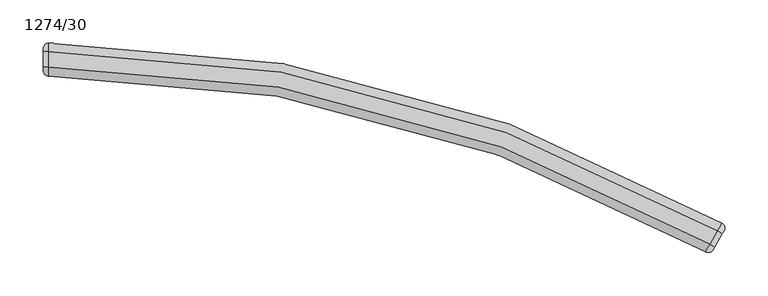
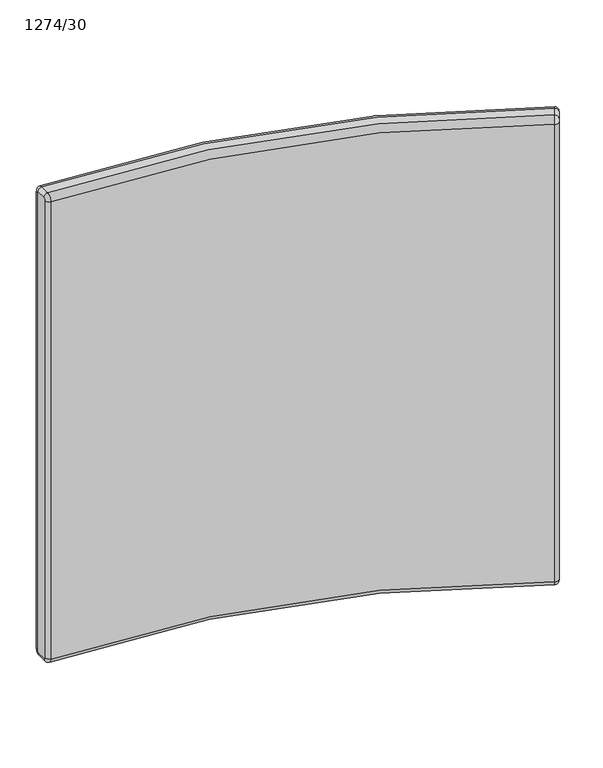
"""IFC4 building model written with IfcOpenShell, lengths in millimetres: furniture geometry, Laguna-Panel-Curve_Inside-ERG : 1274/30."""

from ifc_helpers import new_model, si_unit, point, frame, origin, place, context, project, spatial, polyline, circle_curve, ellipse_curve, trimmed, source, transform, mapped, element, save
from ifc_brep_helpers import plane_surface, cylinder_surface, revolved_surface, advanced_brep


def furniture_1274_30_ad6ad9e1(model_context):
    return source(origin(), model_context, "Body", "AdvancedBrep", [
        advanced_brep(
        [(-4044.6111209, 1281.2423208, 1056.64), (-4046.9353822, 1289.9165821, 1056.64), (-4052.0153822, 1281.117764, 1066.8), (-4046.5161209, 1277.942764, 1060.45), (-4060.9186326, 1265.696882, 1066.8), (-4055.4193713, 1262.521882, 1060.45), (-4065.9986326, 1256.8980639, 1056.64), (-4057.3243713, 1259.2223252, 1056.64), (-4065.9986326, 1256.8980639, 213.36), (-4057.3243713, 1259.2223252, 213.36), (-4060.9186326, 1265.696882, 203.2), (-4055.4193713, 1262.521882, 209.55), (-4052.0153822, 1281.117764, 203.2), (-4046.5161209, 1277.942764, 209.55), (-4046.9353822, 1289.9165821, 213.36), (-4044.6111209, 1281.2423208, 213.36), (-4826.5553779, 1498.8151303, 1056.64), (-4826.5553779, 1488.6551303, 1066.8), (-4826.5553779, 1498.8151303, 213.36), (-4826.5553779, 1488.6551303, 203.2), (-4826.5553779, 1470.8486296, 203.2), (-4826.5553779, 1460.6886296, 213.36), (-4826.5553779, 1460.6886296, 1056.64), (-4826.5553779, 1470.8486296, 1066.8), (-4832.9053779, 1467.0386296, 1056.64), (-4832.9053779, 1470.8486296, 1060.45), (-4832.9053779, 1488.6551303, 1060.45), (-4832.9053779, 1492.4651303, 1056.64), (-4832.9053779, 1492.4651303, 213.36), (-4832.9053779, 1488.6551303, 209.55), (-4832.9053779, 1470.8486296, 209.55), (-4832.9053779, 1467.0386296, 213.36)],
        [
            (0, 1, circle_curve(frame((-4050.1103822, 1284.4173208, 1056.64), z_axis=(0.0, 0.0, 1.0), x_axis=(-0.5000000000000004, -0.8660254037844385, 0.0)), 6.35)),
            (1, 2, circle_curve(frame((-4052.0153822, 1281.117764, 1056.64), z_axis=(0.866025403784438, -0.5000000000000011, 0.0), x_axis=(0.5000000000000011, 0.866025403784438, 0.0)), 10.16)),
            (2, 3, circle_curve(frame((-4052.0153822, 1281.117764, 1060.45), z_axis=(0.5000000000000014, 0.8660254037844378, 0.0), x_axis=(0.0, 0.0, -1.0)), 6.35)),
            (3, 0, circle_curve(frame((-4046.5161209, 1277.942764, 1056.64), z_axis=(-0.866025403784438, 0.5000000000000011, 0.0), x_axis=(0.5000000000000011, 0.866025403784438, 0.0)), 3.81)),
            (2, 4),
            (4, 5, circle_curve(frame((-4060.9186326, 1265.696882, 1060.45), z_axis=(0.5000000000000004, 0.8660254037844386, 0.0), x_axis=(0.0, 0.0, -1.0)), 6.35)),
            (5, 3),
            (4, 6, circle_curve(frame((-4060.9186326, 1265.696882, 1056.64), z_axis=(0.866025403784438, -0.5000000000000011, 0.0), x_axis=(0.0, 0.0, 1.0)), 10.16)),
            (6, 7, circle_curve(frame((-4062.8236326, 1262.3973252, 1056.64), z_axis=(0.0, 0.0, 1.0), x_axis=(0.5000000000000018, 0.8660254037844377, 0.0)), 6.35)),
            (7, 5, circle_curve(frame((-4055.4193713, 1262.521882, 1056.64), z_axis=(-0.866025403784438, 0.5000000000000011, 0.0), x_axis=(0.0, 0.0, 1.0)), 3.81)),
            (6, 8),
            (8, 9, circle_curve(frame((-4062.8236326, 1262.3973252, 213.36), z_axis=(0.0, 0.0, 1.0), x_axis=(0.5000000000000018, 0.8660254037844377, 0.0)), 6.35)),
            (9, 7),
            (8, 10, circle_curve(frame((-4060.9186326, 1265.696882, 213.36), z_axis=(0.8660254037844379, -0.5000000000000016, 0.0), x_axis=(-0.5000000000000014, -0.8660254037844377, 0.0)), 10.16)),
            (10, 11, circle_curve(frame((-4060.9186326, 1265.696882, 209.55), z_axis=(-0.5000000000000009, -0.866025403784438, 0.0), x_axis=(0.0, 0.0, 0.9999999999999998)), 6.35)),
            (11, 9, circle_curve(frame((-4055.4193713, 1262.521882, 213.36), z_axis=(-0.8660254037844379, 0.5000000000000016, 0.0), x_axis=(-0.5000000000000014, -0.8660254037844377, 0.0)), 3.81)),
            (10, 12),
            (12, 13, circle_curve(frame((-4052.0153822, 1281.117764, 209.55), z_axis=(-0.4999999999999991, -0.8660254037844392, 0.0), x_axis=(0.0, 0.0, 1.0)), 6.35)),
            (13, 11),
            (12, 14, circle_curve(frame((-4052.0153822, 1281.117764, 213.36), z_axis=(0.8660254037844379, -0.5000000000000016, 0.0), x_axis=(0.0, 0.0, -1.0)), 10.16)),
            (14, 15, circle_curve(frame((-4050.1103822, 1284.4173208, 213.36), z_axis=(0.0, 0.0, -1.0), x_axis=(-0.5000000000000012, -0.8660254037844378, 0.0)), 6.35)),
            (15, 13, circle_curve(frame((-4046.5161209, 1277.942764, 213.36), z_axis=(-0.8660254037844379, 0.5000000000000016, 0.0), x_axis=(0.0, 0.0, -1.0)), 3.81)),
            (0, 15),
            (14, 1),
            (1, 16, circle_curve(frame((-4826.5553779, -60.4248609, 1056.64), z_axis=(0.0, 0.0, 1.0), x_axis=(0.0, 1.0, 0.0)), 1559.2399912)),
            (16, 17, circle_curve(frame((-4826.5553779, 1488.6551303, 1056.64), z_axis=(1.0, 0.0, 0.0), x_axis=(0.0, 1.0, 0.0)), 10.16)),
            (17, 2, circle_curve(frame((-4826.5553779, -60.4248609, 1066.8), z_axis=(0.0, 0.0, -1.0), x_axis=(0.0, 1.0, 0.0)), 1549.0799912)),
            (14, 18, circle_curve(frame((-4826.5553779, -60.4248609, 213.36), z_axis=(0.0, 0.0, 1.0), x_axis=(0.0, 1.0, 0.0)), 1559.2399912)),
            (18, 16),
            (12, 19, circle_curve(frame((-4826.5553779, -60.4248609, 203.2), z_axis=(0.0, 0.0, 1.0), x_axis=(0.0, 1.0, 0.0)), 1549.0799912)),
            (19, 18, circle_curve(frame((-4826.5553779, 1488.6551303, 213.36), z_axis=(1.0, 0.0, 0.0), x_axis=(0.0, 1.0, 0.0)), 10.16)),
            (10, 20, circle_curve(frame((-4826.5553779, -60.4248609, 203.2), z_axis=(0.0, 0.0, 1.0), x_axis=(0.0, 1.0, 0.0)), 1531.2734905)),
            (20, 19),
            (8, 21, circle_curve(frame((-4826.5553779, -60.4248609, 213.36), z_axis=(0.0, 0.0, 1.0), x_axis=(0.0, 1.0, 0.0)), 1521.1134905)),
            (21, 20, circle_curve(frame((-4826.5553779, 1470.8486296, 213.36), z_axis=(1.0, 0.0, 0.0), x_axis=(0.0, 1.0, 0.0)), 10.16)),
            (6, 22, circle_curve(frame((-4826.5553779, -60.4248609, 1056.64), z_axis=(0.0, 0.0, 1.0), x_axis=(0.0, 1.0, 0.0)), 1521.1134905)),
            (22, 21),
            (4, 23, circle_curve(frame((-4826.5553779, -60.4248609, 1066.8), z_axis=(0.0, 0.0, 1.0), x_axis=(0.0, 1.0, 0.0)), 1531.2734905)),
            (23, 22, circle_curve(frame((-4826.5553779, 1470.8486296, 1056.64), z_axis=(1.0, 0.0, 0.0), x_axis=(0.0, 1.0, 0.0)), 10.16)),
            (17, 23),
            (24, 22, circle_curve(frame((-4826.5553779, 1467.0386296, 1056.64), z_axis=(0.0, 0.0, 1.0), x_axis=(0.0, 1.0, 0.0)), 6.35)),
            (23, 25, circle_curve(frame((-4826.5553779, 1470.8486296, 1060.45), z_axis=(0.0, -1.0, 0.0), x_axis=(0.0, 0.0, -1.0)), 6.35)),
            (25, 24, circle_curve(frame((-4832.9053779, 1470.8486296, 1056.64), z_axis=(1.0, 0.0, 0.0), x_axis=(0.0, -1.0, 0.0)), 3.81)),
            (17, 26, circle_curve(frame((-4826.5553779, 1488.6551303, 1060.45), z_axis=(0.0, -1.0, 0.0), x_axis=(0.0, 0.0, -1.0)), 6.35)),
            (26, 25),
            (16, 27, circle_curve(frame((-4826.5553779, 1492.4651303, 1056.64), z_axis=(0.0, 0.0, 1.0), x_axis=(0.0, -1.0, 0.0)), 6.35)),
            (27, 26, circle_curve(frame((-4832.9053779, 1488.6551303, 1056.64), z_axis=(1.0, 0.0, 0.0), x_axis=(0.0, 0.0, 1.0)), 3.81)),
            (18, 28, circle_curve(frame((-4826.5553779, 1492.4651303, 213.36), z_axis=(0.0, 0.0, 1.0), x_axis=(0.0, -1.0, 0.0)), 6.35)),
            (28, 27),
            (19, 29, circle_curve(frame((-4826.5553779, 1488.6551303, 209.55), z_axis=(0.0, 1.0, 0.0), x_axis=(0.0, 0.0, 1.0)), 6.35)),
            (29, 28, circle_curve(frame((-4832.9053779, 1488.6551303, 213.36), z_axis=(1.0, 0.0, 0.0), x_axis=(0.0, 1.0, 0.0)), 3.81)),
            (20, 30, circle_curve(frame((-4826.5553779, 1470.8486296, 209.55), z_axis=(0.0, 1.0, 0.0), x_axis=(0.0, 0.0, 1.0)), 6.35)),
            (30, 29),
            (21, 31, circle_curve(frame((-4826.5553779, 1467.0386296, 213.36), z_axis=(0.0, 0.0, -1.0), x_axis=(0.0, 1.0, 0.0)), 6.35)),
            (31, 30, circle_curve(frame((-4832.9053779, 1470.8486296, 213.36), z_axis=(1.0, 0.0, 0.0), x_axis=(0.0, 0.0, -1.0)), 3.81)),
            (24, 31),
        ],
        [
            revolved_surface(trimmed(ellipse_curve(frame((-4050.1103822, 1284.4173208, 1056.64), z_axis=(0.0, 0.0, -1.0), x_axis=(-0.5000000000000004, -0.8660254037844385, 0.0)), 6.35, 6.35), [point((-4046.9353822, 1289.9165821, 1056.64))], [point((-4044.6111209, 1281.2423208, 1056.64))], True, "CARTESIAN"), (-4052.0153822, 1281.117764, 1056.64), (0.866025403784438, -0.5000000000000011, 0.0)),
            cylinder_surface(frame((-4052.0153822, 1281.117764, 1060.45), z_axis=(0.5000000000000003, 0.8660254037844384, 0.0), x_axis=(0.0, 0.0, -1.0)), 6.35),
            revolved_surface(trimmed(ellipse_curve(frame((-4060.9186326, 1265.696882, 1060.45), z_axis=(0.5000000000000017, 0.8660254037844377, 0.0), x_axis=(0.0, 0.0, -1.0)), 6.35, 6.35), [point((-4060.9186326, 1265.696882, 1066.8))], [point((-4055.4193713, 1262.521882, 1060.45))], True, "CARTESIAN"), (-4060.9186326, 1265.696882, 1056.64), (0.866025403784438, -0.5000000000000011, 0.0)),
            cylinder_surface(frame((-4062.8236326, 1262.3973252, 1056.64), z_axis=(0.0, 0.0, 1.0000000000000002), x_axis=(0.5000000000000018, 0.8660254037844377, 0.0)), 6.35),
            revolved_surface(trimmed(ellipse_curve(frame((-4062.8236326, 1262.3973252, 213.36), z_axis=(0.0, 0.0, 0.9999999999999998), x_axis=(0.5000000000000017, 0.8660254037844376, 0.0)), 6.35, 6.35), [point((-4065.9986326, 1256.8980639, 213.36))], [point((-4057.3243713, 1259.2223252, 213.36))], True, "CARTESIAN"), (-4060.9186326, 1265.696882, 213.36), (0.8660254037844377, -0.5000000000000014, 0.0)),
            cylinder_surface(frame((-4060.9186326, 1265.696882, 209.55), z_axis=(-0.4999999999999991, -0.8660254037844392, 0.0), x_axis=(0.0, 0.0, 1.0)), 6.35),
            revolved_surface(trimmed(ellipse_curve(frame((-4052.0153822, 1281.117764, 209.55), z_axis=(-0.5000000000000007, -0.8660254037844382, 0.0), x_axis=(0.0, 0.0, 1.0)), 6.35, 6.35), [point((-4052.0153822, 1281.117764, 203.2))], [point((-4046.5161209, 1277.942764, 209.55))], True, "CARTESIAN"), (-4052.0153822, 1281.117764, 213.36), (0.8660254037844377, -0.5000000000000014, 0.0)),
            cylinder_surface(frame((-4050.1103822, 1284.4173208, 213.36), z_axis=(0.0, 0.0, -1.0), x_axis=(-0.5000000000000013, -0.8660254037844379, 0.0)), 6.35),
            plane_surface(frame((-4057.3243713, 1259.2223252, 213.36), z_axis=(0.866025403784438, -0.5000000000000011, 0.0), x_axis=(0.0, 0.0, -1.0))),
            revolved_surface(trimmed(ellipse_curve(frame((-4826.5553779, 1488.6551303, 1056.64), z_axis=(-1.0, 0.0, 0.0), x_axis=(0.0, 1.0, 0.0)), 10.16, 10.16), [point((-4826.5553779, 1488.6551303, 1066.8))], [point((-4826.5553779, 1498.8151303, 1056.64))], True, "CARTESIAN"), (-4826.5553779, -60.4248609, 0.0), (0.0, 0.0, -1.0)),
            cylinder_surface(frame((-4826.5553779, -60.4248609, 0.0), z_axis=(0.0, 0.0, -1.0), x_axis=(0.0, 1.0, 0.0)), 1559.2399912),
            revolved_surface(trimmed(ellipse_curve(frame((-4826.5553779, 1488.6551303, 213.36), z_axis=(-1.0, 0.0, 0.0), x_axis=(0.0, 1.0, 0.0)), 10.16, 10.16), [point((-4826.5553779, 1498.8151303, 213.36))], [point((-4826.5553779, 1488.6551303, 203.2))], True, "CARTESIAN"), (-4826.5553779, -60.4248609, 0.0), (0.0, 0.0, -1.0)),
            plane_surface(frame((-4826.5553779, -60.4248609, 203.2), z_axis=(0.0, 0.0, -1.0), x_axis=(0.0, 1.0, 0.0))),
            revolved_surface(trimmed(ellipse_curve(frame((-4826.5553779, 1470.8486296, 213.36), z_axis=(-1.0, 0.0, 0.0), x_axis=(0.0, 1.0, 0.0)), 10.16, 10.16), [point((-4826.5553779, 1470.8486296, 203.2))], [point((-4826.5553779, 1460.6886296, 213.36))], True, "CARTESIAN"), (-4826.5553779, -60.4248609, 0.0), (0.0, 0.0, -1.0)),
            revolved_surface(polyline([(-4826.5553779, 1460.6886295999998, 213.36), (-4826.5553779, 1460.6886295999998, 1056.64)]), (-4826.5553779, -60.4248609, 0.0), (0.0, 0.0, -1.0)),
            revolved_surface(trimmed(ellipse_curve(frame((-4826.5553779, 1470.8486296, 1056.64), z_axis=(-1.0, 0.0, 0.0), x_axis=(0.0, 1.0, 0.0)), 10.16, 10.16), [point((-4826.5553779, 1460.6886296, 1056.64))], [point((-4826.5553779, 1470.8486296, 1066.8))], True, "CARTESIAN"), (-4826.5553779, -60.4248609, 0.0), (0.0, 0.0, -1.0)),
            plane_surface(frame((-4826.5553779, -60.4248609, 1066.8), z_axis=(0.0, 0.0, 1.0), x_axis=(0.0, 1.0, 0.0))),
            revolved_surface(trimmed(ellipse_curve(frame((-4826.5553779, 1467.0386296, 1056.64), z_axis=(0.0, 0.0, -1.0), x_axis=(0.0, 1.0, 0.0)), 6.35, 6.35), [point((-4826.5553779, 1460.6886296, 1056.64))], [point((-4832.9053779, 1467.0386296, 1056.64))], True, "CARTESIAN"), (-4826.5553779, 1470.8486296, 1056.64), (-1.0, 0.0, 0.0)),
            cylinder_surface(frame((-4826.5553779, 1470.8486296, 1060.45), z_axis=(0.0, -1.0, 0.0), x_axis=(0.0, 0.0, -1.0)), 6.35),
            revolved_surface(trimmed(ellipse_curve(frame((-4826.5553779, 1488.6551303, 1060.45), z_axis=(0.0, -1.0, 0.0), x_axis=(0.0, 0.0, -1.0)), 6.35, 6.35), [point((-4826.5553779, 1488.6551303, 1066.8))], [point((-4832.9053779, 1488.6551303, 1060.45))], True, "CARTESIAN"), (-4826.5553779, 1488.6551303, 1056.64), (-1.0, 0.0, 0.0)),
            cylinder_surface(frame((-4826.5553779, 1492.4651303, 1056.64), z_axis=(0.0, 0.0, 1.0), x_axis=(0.0, -1.0, 0.0)), 6.35),
            revolved_surface(trimmed(ellipse_curve(frame((-4826.5553779, 1492.4651303, 213.36), z_axis=(0.0, 0.0, 1.0), x_axis=(0.0, -1.0, 0.0)), 6.35, 6.35), [point((-4826.5553779, 1498.8151303, 213.36))], [point((-4832.9053779, 1492.4651303, 213.36))], True, "CARTESIAN"), (-4826.5553779, 1488.6551303, 213.36), (-1.0, 0.0, 0.0)),
            cylinder_surface(frame((-4826.5553779, 1488.6551303, 209.55), z_axis=(0.0, 1.0, 0.0), x_axis=(0.0, 0.0, 1.0)), 6.35),
            revolved_surface(trimmed(ellipse_curve(frame((-4826.5553779, 1470.8486296, 209.55), z_axis=(0.0, 1.0, 0.0), x_axis=(0.0, 0.0, 1.0)), 6.35, 6.35), [point((-4826.5553779, 1470.8486296, 203.2))], [point((-4832.9053779, 1470.8486296, 209.55))], True, "CARTESIAN"), (-4826.5553779, 1470.8486296, 213.36), (-1.0, 0.0, 0.0)),
            cylinder_surface(frame((-4826.5553779, 1467.0386296, 213.36), z_axis=(0.0, 0.0, -1.0), x_axis=(0.0, 1.0, 0.0)), 6.35),
            plane_surface(frame((-4832.9053779, 1492.4651303, 213.36), z_axis=(-1.0, 0.0, 0.0), x_axis=(0.0, 0.0, -1.0))),
        ],
        [
            (0, [[1, 2, 3, 4]]),
            (1, [[-3, 5, 6, 7]]),
            (2, [[-6, 8, 9, 10]]),
            (3, [[-9, 11, 12, 13]]),
            (4, [[-12, 14, 15, 16]]),
            (5, [[-15, 17, 18, 19]]),
            (6, [[-18, 20, 21, 22]]),
            (7, [[-1, 23, -21, 24]]),
            (8, [[-4, -7, -10, -13, -16, -19, -22, -23]]),
            (9, [[25, 26, 27, -2]]),
            (10, [[-25, -24, 28, 29]]),
            (11, [[-28, -20, 30, 31]]),
            (12, [[-30, -17, 32, 33]]),
            (13, [[-32, -14, 34, 35]]),
            (14, [[-34, -11, 36, 37]]),
            (15, [[-36, -8, 38, 39]]),
            (16, [[-27, 40, -38, -5]]),
            (17, [[41, -39, 42, 43]]),
            (18, [[-42, -40, 44, 45]]),
            (19, [[-44, -26, 46, 47]]),
            (20, [[-46, -29, 48, 49]]),
            (21, [[-48, -31, 50, 51]]),
            (22, [[-50, -33, 52, 53]]),
            (23, [[-52, -35, 54, 55]]),
            (24, [[-41, 56, -54, -37]]),
            (25, [[-43, -45, -47, -49, -51, -53, -55, -56]]),
        ],
    ),
    ])


if __name__ == "__main__":
    model = new_model("IFC4")
    model_context = context("Model", 3, world=origin())
    ifc_project = project(units=[si_unit("LENGTHUNIT", "METRE", prefix="MILLI")], contexts=[model_context])
    site = spatial("IfcSite", under=ifc_project)
    building = spatial("IfcBuilding", under=site)
    placement = place(None, origin())
    furniture_1274_30_shape = furniture_1274_30_ad6ad9e1(model_context)
    element("IfcFurniture", 1, ObjectType="Laguna-Panel-Curve_Inside-ERG : 1274/30", at=placement, inside=building, context=model_context, shape_type="MappedRepresentation", body=[
        mapped(furniture_1274_30_shape, transform((0.0, 0.0, 0.0), x_axis=(1.0, 0.0, 0.0), y_axis=(0.0, 1.0, 0.0), z_axis=(0.0, 0.0, 1.0))),
    ])
    save(model, "model.ifc")
